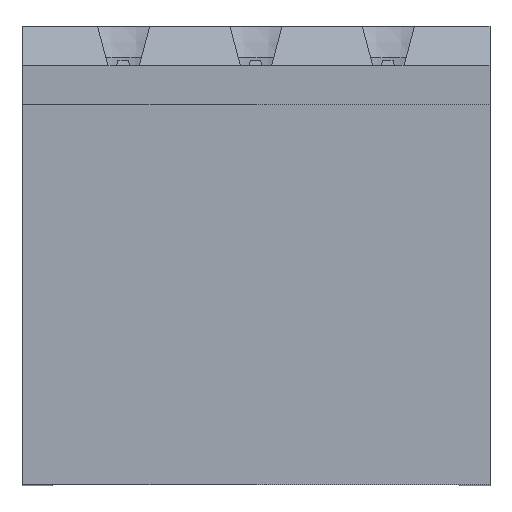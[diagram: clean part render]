
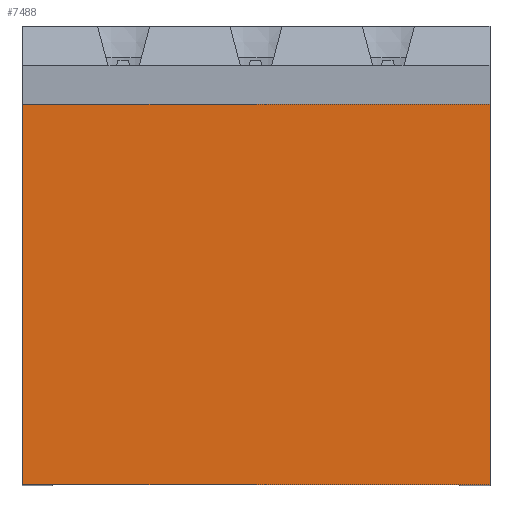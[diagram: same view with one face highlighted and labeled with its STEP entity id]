
A CAD part, top view. The second image highlights one B-rep face of the part: STEP entity #7488.
In plain terms, the highlighted planar face has unit normal (0, 0, 1).
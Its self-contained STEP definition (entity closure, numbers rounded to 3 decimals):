
#9=DIRECTION('',(1.,0.,0.));
#10=VECTOR('',#9,17.96);
#11=CARTESIAN_POINT('',(35.967,10.63,-0.5));
#12=LINE('',#11,#10);
#1458=DIRECTION('',(-1.,0.,0.));
#1459=VECTOR('',#1458,17.96);
#1460=CARTESIAN_POINT('',(53.927,25.23,-0.5));
#1461=LINE('',#1460,#1459);
#1466=DIRECTION('',(0.,-1.,0.));
#1467=VECTOR('',#1466,14.6);
#1468=CARTESIAN_POINT('',(53.927,25.23,-0.5));
#1469=LINE('',#1468,#1467);
#1474=DIRECTION('',(0.,-1.,0.));
#1475=VECTOR('',#1474,14.6);
#1476=CARTESIAN_POINT('',(35.967,25.23,-0.5));
#1477=LINE('',#1476,#1475);
#4377=CARTESIAN_POINT('',(35.967,10.63,-0.5));
#4378=VERTEX_POINT('',#4377);
#4379=CARTESIAN_POINT('',(53.927,10.63,-0.5));
#4380=VERTEX_POINT('',#4379);
#4883=CARTESIAN_POINT('',(53.927,25.23,-0.5));
#4884=VERTEX_POINT('',#4883);
#5013=CARTESIAN_POINT('',(35.967,25.23,-0.5));
#5014=VERTEX_POINT('',#5013);
#7475=CARTESIAN_POINT('',(62.207,7.28,-0.5));
#7476=DIRECTION('',(0.,0.,-1.));
#7477=DIRECTION('',(0.,1.,0.));
#7478=AXIS2_PLACEMENT_3D('',#7475,#7476,#7477);
#7479=PLANE('',#7478);
#7480=ORIENTED_EDGE('',*,*,#5636,.F.);
#7482=ORIENTED_EDGE('',*,*,#7481,.F.);
#7483=ORIENTED_EDGE('',*,*,#7465,.F.);
#7485=ORIENTED_EDGE('',*,*,#7484,.T.);
#7486=EDGE_LOOP('',(#7480,#7482,#7483,#7485));
#7487=FACE_OUTER_BOUND('',#7486,.F.);
#7488=ADVANCED_FACE('',(#7487),#7479,.F.);
#5636=EDGE_CURVE('',#4378,#4380,#12,.T.);
#7465=EDGE_CURVE('',#4884,#5014,#1461,.T.);
#7481=EDGE_CURVE('',#5014,#4378,#1477,.T.);
#7484=EDGE_CURVE('',#4884,#4380,#1469,.T.);
